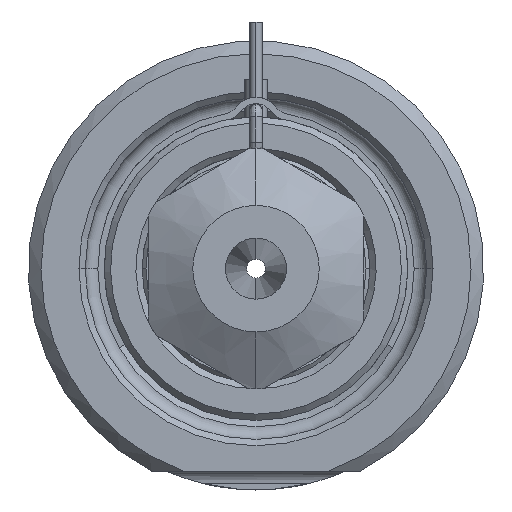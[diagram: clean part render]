
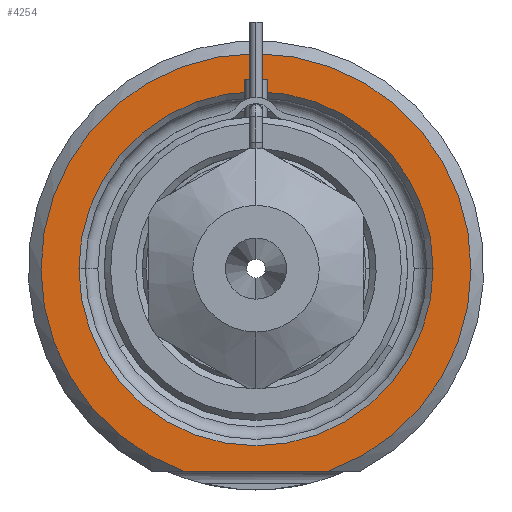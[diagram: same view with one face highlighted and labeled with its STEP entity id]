
A CAD part, front view. The second image highlights one B-rep face of the part: STEP entity #4254.
In plain terms, the highlighted planar face has unit normal (0, -1, 0).
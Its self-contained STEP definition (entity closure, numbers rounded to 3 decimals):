
#1340=CARTESIAN_POINT('',(0.,0.,0.));
#1341=DIRECTION('',(0.,-1.,0.));
#1342=DIRECTION('',(0.338,0.,-0.941));
#1343=AXIS2_PLACEMENT_3D('',#1340,#1341,#1342);
#1364=DIRECTION('',(1.,0.,0.));
#1365=VECTOR('',#1364,11.489);
#1366=CARTESIAN_POINT('',(-5.745,0.,-16.));
#1367=LINE('',#1366,#1365);
#1368=CARTESIAN_POINT('',(0.,0.,0.));
#1369=DIRECTION('',(0.,1.,0.));
#1370=DIRECTION('',(-1.,0.,0.));
#1371=AXIS2_PLACEMENT_3D('',#1368,#1369,#1370);
#1373=CARTESIAN_POINT('',(0.,0.,0.));
#1374=DIRECTION('',(0.,1.,0.));
#1375=DIRECTION('',(1.,0.,0.));
#1376=AXIS2_PLACEMENT_3D('',#1373,#1374,#1375);
#2255=CARTESIAN_POINT('',(-14.,0.,0.));
#2256=CARTESIAN_POINT('',(14.,0.,0.));
#2257=VERTEX_POINT('',#2255);
#2258=VERTEX_POINT('',#2256);
#2305=CARTESIAN_POINT('',(-5.745,0.,-16.));
#2306=CARTESIAN_POINT('',(5.745,0.,-16.));
#2307=VERTEX_POINT('',#2305);
#2308=VERTEX_POINT('',#2306);
#4239=CARTESIAN_POINT('',(0.,0.,0.));
#4240=DIRECTION('',(0.,-1.,0.));
#4241=DIRECTION('',(1.,0.,0.));
#4242=AXIS2_PLACEMENT_3D('',#4239,#4240,#4241);
#4243=PLANE('',#4242);
#4244=ORIENTED_EDGE('',*,*,#4171,.F.);
#4245=ORIENTED_EDGE('',*,*,#4231,.F.);
#4246=EDGE_LOOP('',(#4244,#4245));
#4247=FACE_OUTER_BOUND('',#4246,.F.);
#4249=ORIENTED_EDGE('',*,*,#4248,.F.);
#4251=ORIENTED_EDGE('',*,*,#4250,.F.);
#4252=EDGE_LOOP('',(#4249,#4251));
#4253=FACE_BOUND('',#4252,.F.);
#4254=ADVANCED_FACE('',(#4247,#4253),#4243,.T.);
#1344=CIRCLE('',#1343,17.);
#1372=CIRCLE('',#1371,14.);
#1377=CIRCLE('',#1376,14.);
#4171=EDGE_CURVE('',#2307,#2308,#1367,.T.);
#4231=EDGE_CURVE('',#2308,#2307,#1344,.T.);
#4248=EDGE_CURVE('',#2257,#2258,#1372,.T.);
#4250=EDGE_CURVE('',#2258,#2257,#1377,.T.);
